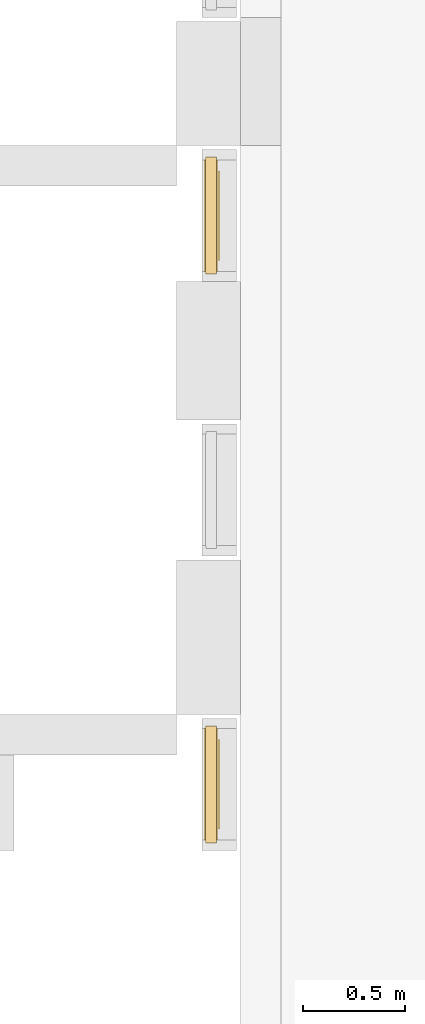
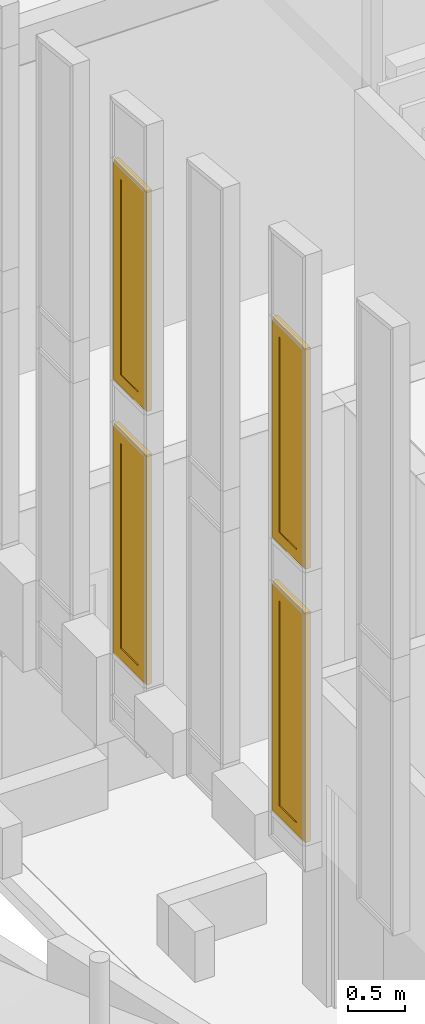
# One storey, part 156 of 246: 4 windows, 2 elements without a shape of their own.
"""IFC2X3 building model written with IfcOpenShell, lengths in millimetres."""

from ifc_helpers import new_model, entity, si_unit, converted_unit, derived_unit, money_unit, direction, frame, origin_with_axes, place, context, subcontext, project, spatial, open_shell, faceted_brep, surface_model, material, material_list, type_object, element, aggregate, save


model = new_model("IFC2X3")

# Units and contexts
model_context = context("Model", 3, precision=0.01, world=origin_with_axes(), true_north=direction((0.0, 1.0)))
body_context = subcontext(model_context, "Body", "Model", "MODEL_VIEW")
ifc_project = project(units=[si_unit("LENGTHUNIT", "METRE", prefix="MILLI"), si_unit("AREAUNIT", "SQUARE_METRE"), si_unit("VOLUMEUNIT", "CUBIC_METRE"), converted_unit("PLANEANGLEUNIT", "DEGREE", entity("IfcPlaneAngleMeasure", 0.0174532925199), si_unit("PLANEANGLEUNIT", "RADIAN"), dimensions=[0, 0, 0, 0, 0, 0, 0]), si_unit("SOLIDANGLEUNIT", "STERADIAN"), money_unit("EUR"), converted_unit("TIMEUNIT", "Year", entity("IfcTimeMeasure", 31556926.0), si_unit("TIMEUNIT", "SECOND"), dimensions=[0, 0, 1, 0, 0, 0, 0]), si_unit("MASSUNIT", "GRAM", prefix="KILO"), si_unit("THERMODYNAMICTEMPERATUREUNIT", "DEGREE_CELSIUS"), si_unit("LUMINOUSINTENSITYUNIT", "LUMEN"), si_unit("ENERGYUNIT", "JOULE", prefix="MEGA"), derived_unit("THERMALCONDUCTANCEUNIT", [(si_unit("POWERUNIT", "WATT"), 1), (si_unit("LENGTHUNIT", "METRE"), -1), (si_unit("THERMODYNAMICTEMPERATUREUNIT", "KELVIN"), -1)]), derived_unit("SPECIFICHEATCAPACITYUNIT", [(si_unit("ENERGYUNIT", "JOULE"), 1), (si_unit("MASSUNIT", "GRAM", prefix="KILO"), -1), (si_unit("THERMODYNAMICTEMPERATUREUNIT", "KELVIN"), -1)]), derived_unit("MASSDENSITYUNIT", [(si_unit("MASSUNIT", "GRAM", prefix="KILO"), 1), (si_unit("VOLUMEUNIT", "CUBIC_METRE"), -1)])], contexts=[model_context])

# Site, building, storey
site_placement = place(None, origin_with_axes())
site = spatial("IfcSite", under=ifc_project, at=site_placement, Name="L.Koidula tn 11b", CompositionType="ELEMENT")
building_placement = place(site_placement, origin_with_axes())
building = spatial("IfcBuilding", under=site, at=building_placement, Name="Rakvere Riigigümnaasium", CompositionType="ELEMENT")
storey_placement = place(building_placement, origin_with_axes())
storey = spatial("IfcBuildingStorey", under=building, at=storey_placement, Name="1.korrus 0,00", CompositionType="ELEMENT", Elevation=0.0)

# Curtain wall, window
curtain_wall_type = type_object("IfcCurtainWallType", Name="Curtain Wall Type", PredefinedType="NOTDEFINED")
curtain_wall_1_placement = place(storey_placement, frame((35156.0871538, 22235.4555038, 3003.0), z_axis=(0.0, 0.0, 1.0), x_axis=(1.0, 0.0, 0.0)))
curtain_wall_1 = element("IfcCurtainWall", 1, at=curtain_wall_1_placement, inside=storey, type_object=curtain_wall_type, Name="KLF-04-07")
ifc_material_1 = material(Name="Alumiiniumprofiil (RAL 7021)")
ifc_material_2 = material(Name="Klaaspakett 3x")
ifc_material_list = material_list([ifc_material_1, ifc_material_2])
window_style_1 = type_object("IfcWindowStyle", Name="576 x 2476 x 54", ConstructionType="NOTDEFINED", OperationType="NOTDEFINED", ParameterTakesPrecedence=False, Sizeable=False)
window_1_placement = place(curtain_wall_1_placement, frame((0.0, -1.52644155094e-05, 1992.00007113), z_axis=(0.0, 0.0, 1.0), x_axis=(0.0, 1.0, 0.0)))
window_1 = element("IfcWindow", 2, at=window_1_placement, type_object=window_style_1, material=ifc_material_list, Name="KLF-04-A-7", ObjectType="WINDOW", context=body_context, shape_type="SurfaceModel", body=[
    surface_model("IfcShellBasedSurfaceModel", [(275.000062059, 36.0, -1225.0), (221.000062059, 36.0, -1171.0), (-221.000012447, 36.0, -1171.0), (-275.000012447, 36.0, -1225.0)], [open_shell([[[0, 1, 2, 3]]])]),
    surface_model("IfcShellBasedSurfaceModel", [(-275.000012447, 36.0, -1225.0), (-221.000012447, 36.0, -1171.0), (-221.000012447, 36.0, 1171.0), (-275.000012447, 36.0, 1225.0)], [open_shell([[[0, 1, 2, 3]]])]),
    surface_model("IfcShellBasedSurfaceModel", [(275.000062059, 36.0, 1225.0), (-275.000012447, 36.0, 1225.0), (-221.000012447, 36.0, 1171.0), (221.000062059, 36.0, 1171.0)], [open_shell([[[0, 1, 2, 3]]])]),
    surface_model("IfcShellBasedSurfaceModel", [(275.000062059, 36.0, -1225.0), (275.000062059, 36.0, 1225.0), (221.000062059, 36.0, 1171.0), (221.000062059, 36.0, -1171.0)], [open_shell([[[0, 1, 2, 3]]])]),
    faceted_brep([(275.000062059, -34.0, -1225.0), (-275.000012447, -34.0, -1225.0), (-275.000012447, 36.0, -1225.0), (275.000062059, 36.0, -1225.0), (221.000062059, -34.0, -1171.0), (-221.000012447, -34.0, -1171.0), (-221.000012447, 36.0, -1171.0), (221.000062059, 36.0, -1171.0)], [[[0, 1, 2, 3]], [[0, 4, 5, 1]], [[1, 5, 6, 2]], [[3, 2, 6, 7]], [[4, 0, 3, 7]], [[5, 4, 7, 6]]]),
    faceted_brep([(-275.000012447, -34.0, -1225.0), (-275.000012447, -34.0, 1225.0), (-275.000012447, 36.0, 1225.0), (-275.000012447, 36.0, -1225.0), (-221.000012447, -34.0, -1171.0), (-221.000012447, -34.0, 1171.0), (-221.000012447, 36.0, 1171.0), (-221.000012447, 36.0, -1171.0)], [[[0, 1, 2, 3]], [[0, 4, 5, 1]], [[1, 5, 6, 2]], [[3, 2, 6, 7]], [[4, 0, 3, 7]], [[5, 4, 7, 6]]]),
    faceted_brep([(275.000062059, -34.0, 1225.0), (221.000062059, -34.0, 1171.0), (221.000062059, 36.0, 1171.0), (275.000062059, 36.0, 1225.0), (-275.000012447, -34.0, 1225.0), (-221.000012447, -34.0, 1171.0), (-221.000012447, 36.0, 1171.0), (-275.000012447, 36.0, 1225.0)], [[[0, 1, 2, 3]], [[0, 4, 5, 1]], [[1, 5, 6, 2]], [[3, 2, 6, 7]], [[4, 0, 3, 7]], [[5, 4, 7, 6]]]),
    faceted_brep([(275.000062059, -34.0, -1225.0), (221.000062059, -34.0, -1171.0), (221.000062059, 36.0, -1171.0), (275.000062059, 36.0, -1225.0), (275.000062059, -34.0, 1225.0), (221.000062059, -34.0, 1171.0), (221.000062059, 36.0, 1171.0), (275.000062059, 36.0, 1225.0)], [[[0, 1, 2, 3]], [[0, 4, 5, 1]], [[1, 5, 6, 2]], [[3, 2, 6, 7]], [[4, 0, 3, 7]], [[5, 4, 7, 6]]]),
    faceted_brep([(288.000071, -27.0, -1238.00000894), (-288.000021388, -27.0, -1238.00000894), (-288.000021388, 27.0, -1238.00000894), (288.000071, 27.0, -1238.00000894), (275.000062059, -27.0, -1225.0), (-275.000012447, -27.0, -1225.0), (-275.000012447, 27.0, -1225.0), (275.000062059, 27.0, -1225.0)], [[[0, 1, 2, 3]], [[0, 4, 5, 1]], [[1, 5, 6, 2]], [[3, 2, 6, 7]], [[4, 0, 3, 7]], [[5, 4, 7, 6]]]),
    faceted_brep([(-288.000021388, -27.0, -1238.00000894), (-288.000021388, -27.0, 1238.00000894), (-288.000021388, 27.0, 1238.00000894), (-288.000021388, 27.0, -1238.00000894), (-275.000012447, -27.0, -1225.0), (-275.000012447, -27.0, 1225.0), (-275.000012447, 27.0, 1225.0), (-275.000012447, 27.0, -1225.0)], [[[0, 1, 2, 3]], [[0, 4, 5, 1]], [[1, 5, 6, 2]], [[3, 2, 6, 7]], [[4, 0, 3, 7]], [[5, 4, 7, 6]]]),
    faceted_brep([(-288.000021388, -27.0, 1238.00000894), (288.000071, -27.0, 1238.00000894), (288.000071, 27.0, 1238.00000894), (-288.000021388, 27.0, 1238.00000894), (-275.000012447, -27.0, 1225.0), (275.000062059, -27.0, 1225.0), (275.000062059, 27.0, 1225.0), (-275.000012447, 27.0, 1225.0)], [[[0, 1, 2, 3]], [[0, 4, 5, 1]], [[1, 5, 6, 2]], [[3, 2, 6, 7]], [[4, 0, 3, 7]], [[5, 4, 7, 6]]]),
    faceted_brep([(288.000071, -27.0, 1238.00000894), (288.000071, -27.0, -1238.00000894), (288.000071, 27.0, -1238.00000894), (288.000071, 27.0, 1238.00000894), (275.000062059, -27.0, 1225.0), (275.000062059, -27.0, -1225.0), (275.000062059, 27.0, -1225.0), (275.000062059, 27.0, 1225.0)], [[[0, 1, 2, 3]], [[0, 4, 5, 1]], [[1, 5, 6, 2]], [[3, 2, 6, 7]], [[4, 0, 3, 7]], [[5, 4, 7, 6]]]),
    faceted_brep([(153.000062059, 36.0, -1103.0), (153.000062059, -44.0, -1103.0), (153.000062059, -44.0, 1103.0), (153.000062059, 36.0, 1103.0), (221.000062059, 36.0, -1171.0), (221.000062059, -44.0, -1171.0), (221.000062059, -44.0, 1171.0), (221.000062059, 36.0, 1171.0)], [[[0, 1, 2, 3]], [[4, 5, 1, 0]], [[1, 5, 6, 2]], [[3, 2, 6, 7]], [[0, 3, 7, 4]], [[7, 6, 5, 4]]]),
    faceted_brep([(-221.000012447, 36.0, -1171.0), (-221.000012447, -44.0, -1171.0), (-221.000012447, -44.0, 1171.0), (-221.000012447, 36.0, 1171.0), (-153.000012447, 36.0, -1103.0), (-153.000012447, -44.0, -1103.0), (-153.000012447, -44.0, 1103.0), (-153.000012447, 36.0, 1103.0)], [[[0, 1, 2, 3]], [[4, 5, 1, 0]], [[1, 5, 6, 2]], [[3, 2, 6, 7]], [[0, 3, 7, 4]], [[7, 6, 5, 4]]]),
    faceted_brep([(-221.000012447, 36.0, -1171.0), (-221.000012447, -44.0, -1171.0), (-153.000012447, -44.0, -1103.0), (-153.000012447, 36.0, -1103.0), (221.000062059, 36.0, -1171.0), (221.000062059, -44.0, -1171.0), (153.000062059, -44.0, -1103.0), (153.000062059, 36.0, -1103.0)], [[[0, 1, 2, 3]], [[4, 5, 1, 0]], [[1, 5, 6, 2]], [[3, 2, 6, 7]], [[0, 3, 7, 4]], [[7, 6, 5, 4]]]),
    faceted_brep([(221.000062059, 36.0, 1171.0), (221.000062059, -44.0, 1171.0), (153.000062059, -44.0, 1103.0), (153.000062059, 36.0, 1103.0), (-221.000012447, 36.0, 1171.0), (-221.000012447, -44.0, 1171.0), (-153.000012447, -44.0, 1103.0), (-153.000012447, 36.0, 1103.0)], [[[0, 1, 2, 3]], [[4, 5, 1, 0]], [[1, 5, 6, 2]], [[3, 2, 6, 7]], [[0, 3, 7, 4]], [[7, 6, 5, 4]]]),
    faceted_brep([(153.000062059, 27.0, -1103.0), (153.000062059, 11.0, -1103.0), (-153.000012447, 11.0, -1103.0), (-153.000012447, 27.0, -1103.0), (153.000062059, 27.0, 1103.0), (153.000062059, 11.0, 1103.0), (-153.000012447, 11.0, 1103.0), (-153.000012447, 27.0, 1103.0)], [[[0, 1, 2, 3]], [[4, 5, 1, 0]], [[1, 5, 6, 2]], [[3, 2, 6, 7]], [[0, 3, 7, 4]], [[7, 6, 5, 4]]]),
])

curtain_wall_2_placement = place(storey_placement, frame((35156.0871538, 19435.4554934, 3468.0), z_axis=(0.0, 0.0, 1.0), x_axis=(1.0, 0.0, 0.0)))
curtain_wall_2 = element("IfcCurtainWall", 3, at=curtain_wall_2_placement, inside=storey, type_object=curtain_wall_type, Name="KLF-04-09")
window_2_placement = place(curtain_wall_2_placement, frame((0.0, 2.3627606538e-05, 1527.00007113), z_axis=(0.0, 0.0, 1.0), x_axis=(0.0, 1.0, 0.0)))
window_2 = element("IfcWindow", 4, at=window_2_placement, type_object=window_style_1, material=ifc_material_list, Name="KLF-04-A-7", ObjectType="WINDOW", context=body_context, shape_type="SurfaceModel", body=[
    surface_model("IfcShellBasedSurfaceModel", [(275.000050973, 36.0, -1225.0), (221.000050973, 36.0, -1171.0), (-221.000060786, 36.0, -1171.0), (-275.000060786, 36.0, -1225.0)], [open_shell([[[0, 1, 2, 3]]])]),
    surface_model("IfcShellBasedSurfaceModel", [(-275.000060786, 36.0, -1225.0), (-221.000060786, 36.0, -1171.0), (-221.000060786, 36.0, 1171.0), (-275.000060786, 36.0, 1225.0)], [open_shell([[[0, 1, 2, 3]]])]),
    surface_model("IfcShellBasedSurfaceModel", [(275.000050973, 36.0, 1225.0), (-275.000060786, 36.0, 1225.0), (-221.000060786, 36.0, 1171.0), (221.000050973, 36.0, 1171.0)], [open_shell([[[0, 1, 2, 3]]])]),
    surface_model("IfcShellBasedSurfaceModel", [(275.000050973, 36.0, -1225.0), (275.000050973, 36.0, 1225.0), (221.000050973, 36.0, 1171.0), (221.000050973, 36.0, -1171.0)], [open_shell([[[0, 1, 2, 3]]])]),
    faceted_brep([(275.000050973, -34.0, -1225.0), (-275.000060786, -34.0, -1225.0), (-275.000060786, 36.0, -1225.0), (275.000050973, 36.0, -1225.0), (221.000050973, -34.0, -1171.0), (-221.000060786, -34.0, -1171.0), (-221.000060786, 36.0, -1171.0), (221.000050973, 36.0, -1171.0)], [[[0, 1, 2, 3]], [[0, 4, 5, 1]], [[1, 5, 6, 2]], [[3, 2, 6, 7]], [[4, 0, 3, 7]], [[5, 4, 7, 6]]]),
    faceted_brep([(-275.000060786, -34.0, -1225.0), (-275.000060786, -34.0, 1225.0), (-275.000060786, 36.0, 1225.0), (-275.000060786, 36.0, -1225.0), (-221.000060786, -34.0, -1171.0), (-221.000060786, -34.0, 1171.0), (-221.000060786, 36.0, 1171.0), (-221.000060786, 36.0, -1171.0)], [[[0, 1, 2, 3]], [[0, 4, 5, 1]], [[1, 5, 6, 2]], [[3, 2, 6, 7]], [[4, 0, 3, 7]], [[5, 4, 7, 6]]]),
    faceted_brep([(275.000050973, -34.0, 1225.0), (221.000050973, -34.0, 1171.0), (221.000050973, 36.0, 1171.0), (275.000050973, 36.0, 1225.0), (-275.000060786, -34.0, 1225.0), (-221.000060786, -34.0, 1171.0), (-221.000060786, 36.0, 1171.0), (-275.000060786, 36.0, 1225.0)], [[[0, 1, 2, 3]], [[0, 4, 5, 1]], [[1, 5, 6, 2]], [[3, 2, 6, 7]], [[4, 0, 3, 7]], [[5, 4, 7, 6]]]),
    faceted_brep([(275.000050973, -34.0, -1225.0), (221.000050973, -34.0, -1171.0), (221.000050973, 36.0, -1171.0), (275.000050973, 36.0, -1225.0), (275.000050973, -34.0, 1225.0), (221.000050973, -34.0, 1171.0), (221.000050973, 36.0, 1171.0), (275.000050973, 36.0, 1225.0)], [[[0, 1, 2, 3]], [[0, 4, 5, 1]], [[1, 5, 6, 2]], [[3, 2, 6, 7]], [[4, 0, 3, 7]], [[5, 4, 7, 6]]]),
    faceted_brep([(288.000059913, -27.0, -1238.00000894), (-288.000032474, -27.0, -1238.00000894), (-288.000032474, 27.0, -1238.00000894), (288.000059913, 27.0, -1238.00000894), (275.000050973, -27.0, -1225.0), (-275.000060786, -27.0, -1225.0), (-275.000060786, 27.0, -1225.0), (275.000050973, 27.0, -1225.0)], [[[0, 1, 2, 3]], [[0, 4, 5, 1]], [[1, 5, 6, 2]], [[3, 2, 6, 7]], [[4, 0, 3, 7]], [[5, 4, 7, 6]]]),
    faceted_brep([(-288.000032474, -27.0, -1238.00000894), (-288.000032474, -27.0, 1238.00000894), (-288.000032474, 27.0, 1238.00000894), (-288.000032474, 27.0, -1238.00000894), (-275.000060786, -27.0, -1225.0), (-275.000060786, -27.0, 1225.0), (-275.000060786, 27.0, 1225.0), (-275.000060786, 27.0, -1225.0)], [[[0, 1, 2, 3]], [[0, 4, 5, 1]], [[1, 5, 6, 2]], [[3, 2, 6, 7]], [[4, 0, 3, 7]], [[5, 4, 7, 6]]]),
    faceted_brep([(-288.000032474, -27.0, 1238.00000894), (288.000059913, -27.0, 1238.00000894), (288.000059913, 27.0, 1238.00000894), (-288.000032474, 27.0, 1238.00000894), (-275.000060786, -27.0, 1225.0), (275.000050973, -27.0, 1225.0), (275.000050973, 27.0, 1225.0), (-275.000060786, 27.0, 1225.0)], [[[0, 1, 2, 3]], [[0, 4, 5, 1]], [[1, 5, 6, 2]], [[3, 2, 6, 7]], [[4, 0, 3, 7]], [[5, 4, 7, 6]]]),
    faceted_brep([(288.000059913, -27.0, 1238.00000894), (288.000059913, -27.0, -1238.00000894), (288.000059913, 27.0, -1238.00000894), (288.000059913, 27.0, 1238.00000894), (275.000050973, -27.0, 1225.0), (275.000050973, -27.0, -1225.0), (275.000050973, 27.0, -1225.0), (275.000050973, 27.0, 1225.0)], [[[0, 1, 2, 3]], [[0, 4, 5, 1]], [[1, 5, 6, 2]], [[3, 2, 6, 7]], [[4, 0, 3, 7]], [[5, 4, 7, 6]]]),
    faceted_brep([(153.000050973, 36.0, -1103.0), (153.000050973, -44.0, -1103.0), (153.000050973, -44.0, 1103.0), (153.000050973, 36.0, 1103.0), (221.000050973, 36.0, -1171.0), (221.000050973, -44.0, -1171.0), (221.000050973, -44.0, 1171.0), (221.000050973, 36.0, 1171.0)], [[[0, 1, 2, 3]], [[4, 5, 1, 0]], [[1, 5, 6, 2]], [[3, 2, 6, 7]], [[0, 3, 7, 4]], [[7, 6, 5, 4]]]),
    faceted_brep([(-221.000060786, 36.0, -1171.0), (-221.000060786, -44.0, -1171.0), (-221.000060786, -44.0, 1171.0), (-221.000060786, 36.0, 1171.0), (-153.000060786, 36.0, -1103.0), (-153.000060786, -44.0, -1103.0), (-153.000060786, -44.0, 1103.0), (-153.000060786, 36.0, 1103.0)], [[[0, 1, 2, 3]], [[4, 5, 1, 0]], [[1, 5, 6, 2]], [[3, 2, 6, 7]], [[0, 3, 7, 4]], [[7, 6, 5, 4]]]),
    faceted_brep([(-221.000060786, 36.0, -1171.0), (-221.000060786, -44.0, -1171.0), (-153.000060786, -44.0, -1103.0), (-153.000060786, 36.0, -1103.0), (221.000050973, 36.0, -1171.0), (221.000050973, -44.0, -1171.0), (153.000050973, -44.0, -1103.0), (153.000050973, 36.0, -1103.0)], [[[0, 1, 2, 3]], [[4, 5, 1, 0]], [[1, 5, 6, 2]], [[3, 2, 6, 7]], [[0, 3, 7, 4]], [[7, 6, 5, 4]]]),
    faceted_brep([(221.000050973, 36.0, 1171.0), (221.000050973, -44.0, 1171.0), (153.000050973, -44.0, 1103.0), (153.000050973, 36.0, 1103.0), (-221.000060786, 36.0, 1171.0), (-221.000060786, -44.0, 1171.0), (-153.000060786, -44.0, 1103.0), (-153.000060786, 36.0, 1103.0)], [[[0, 1, 2, 3]], [[4, 5, 1, 0]], [[1, 5, 6, 2]], [[3, 2, 6, 7]], [[0, 3, 7, 4]], [[7, 6, 5, 4]]]),
    faceted_brep([(153.000050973, 27.0, -1103.0), (153.000050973, 11.0, -1103.0), (-153.000060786, 11.0, -1103.0), (-153.000060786, 27.0, -1103.0), (153.000050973, 27.0, 1103.0), (153.000050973, 11.0, 1103.0), (-153.000060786, 11.0, 1103.0), (-153.000060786, 27.0, 1103.0)], [[[0, 1, 2, 3]], [[4, 5, 1, 0]], [[1, 5, 6, 2]], [[3, 2, 6, 7]], [[0, 3, 7, 4]], [[7, 6, 5, 4]]]),
])

# Window
window_style_2 = type_object("IfcWindowStyle", Name="576 x 2376 x 54", ConstructionType="NOTDEFINED", OperationType="NOTDEFINED", ParameterTakesPrecedence=False, Sizeable=False)
window_3_placement = place(curtain_wall_1_placement, frame((0.0, 1.93788203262e-05, 4887.00007113), z_axis=(0.0, 0.0, 1.0), x_axis=(0.0, 1.0, 0.0)))
window_3 = element("IfcWindow", 5, at=window_3_placement, type_object=window_style_2, material=ifc_material_list, Name="KLF-04-A-8", ObjectType="WINDOW", context=body_context, shape_type="SurfaceModel", body=[
    surface_model("IfcShellBasedSurfaceModel", [(274.999922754, 36.0, -1175.0), (220.999922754, 36.0, -1121.0), (-220.999934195, 36.0, -1121.0), (-274.999934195, 36.0, -1175.0)], [open_shell([[[0, 1, 2, 3]]])]),
    surface_model("IfcShellBasedSurfaceModel", [(-274.999934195, 36.0, -1175.0), (-220.999934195, 36.0, -1121.0), (-220.999934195, 36.0, 1121.0), (-274.999934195, 36.0, 1175.0)], [open_shell([[[0, 1, 2, 3]]])]),
    surface_model("IfcShellBasedSurfaceModel", [(274.999922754, 36.0, 1175.0), (-274.999934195, 36.0, 1175.0), (-220.999934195, 36.0, 1121.0), (220.999922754, 36.0, 1121.0)], [open_shell([[[0, 1, 2, 3]]])]),
    surface_model("IfcShellBasedSurfaceModel", [(274.999922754, 36.0, -1175.0), (274.999922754, 36.0, 1175.0), (220.999922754, 36.0, 1121.0), (220.999922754, 36.0, -1121.0)], [open_shell([[[0, 1, 2, 3]]])]),
    faceted_brep([(274.999922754, -34.0, -1175.0), (-274.999934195, -34.0, -1175.0), (-274.999934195, 36.0, -1175.0), (274.999922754, 36.0, -1175.0), (220.999922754, -34.0, -1121.0), (-220.999934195, -34.0, -1121.0), (-220.999934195, 36.0, -1121.0), (220.999922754, 36.0, -1121.0)], [[[0, 1, 2, 3]], [[0, 4, 5, 1]], [[1, 5, 6, 2]], [[3, 2, 6, 7]], [[4, 0, 3, 7]], [[5, 4, 7, 6]]]),
    faceted_brep([(-274.999934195, -34.0, -1175.0), (-274.999934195, -34.0, 1175.0), (-274.999934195, 36.0, 1175.0), (-274.999934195, 36.0, -1175.0), (-220.999934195, -34.0, -1121.0), (-220.999934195, -34.0, 1121.0), (-220.999934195, 36.0, 1121.0), (-220.999934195, 36.0, -1121.0)], [[[0, 1, 2, 3]], [[0, 4, 5, 1]], [[1, 5, 6, 2]], [[3, 2, 6, 7]], [[4, 0, 3, 7]], [[5, 4, 7, 6]]]),
    faceted_brep([(274.999922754, -34.0, 1175.0), (220.999922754, -34.0, 1121.0), (220.999922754, 36.0, 1121.0), (274.999922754, 36.0, 1175.0), (-274.999934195, -34.0, 1175.0), (-220.999934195, -34.0, 1121.0), (-220.999934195, 36.0, 1121.0), (-274.999934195, 36.0, 1175.0)], [[[0, 1, 2, 3]], [[0, 4, 5, 1]], [[1, 5, 6, 2]], [[3, 2, 6, 7]], [[4, 0, 3, 7]], [[5, 4, 7, 6]]]),
    faceted_brep([(274.999922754, -34.0, -1175.0), (220.999922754, -34.0, -1121.0), (220.999922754, 36.0, -1121.0), (274.999922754, 36.0, -1175.0), (274.999922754, -34.0, 1175.0), (220.999922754, -34.0, 1121.0), (220.999922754, 36.0, 1121.0), (274.999922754, 36.0, 1175.0)], [[[0, 1, 2, 3]], [[0, 4, 5, 1]], [[1, 5, 6, 2]], [[3, 2, 6, 7]], [[4, 0, 3, 7]], [[5, 4, 7, 6]]]),
    faceted_brep([(287.999922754, -27.0, -1188.0), (-287.999934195, -27.0, -1188.0), (-287.999934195, 27.0, -1188.0), (287.999922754, 27.0, -1188.0), (274.999922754, -27.0, -1175.0), (-274.999934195, -27.0, -1175.0), (-274.999934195, 27.0, -1175.0), (274.999922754, 27.0, -1175.0)], [[[0, 1, 2, 3]], [[0, 4, 5, 1]], [[1, 5, 6, 2]], [[3, 2, 6, 7]], [[4, 0, 3, 7]], [[5, 4, 7, 6]]]),
    faceted_brep([(-287.999934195, -27.0, -1188.0), (-287.999934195, -27.0, 1188.0), (-287.999934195, 27.0, 1188.0), (-287.999934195, 27.0, -1188.0), (-274.999934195, -27.0, -1175.0), (-274.999934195, -27.0, 1175.0), (-274.999934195, 27.0, 1175.0), (-274.999934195, 27.0, -1175.0)], [[[0, 1, 2, 3]], [[0, 4, 5, 1]], [[1, 5, 6, 2]], [[3, 2, 6, 7]], [[4, 0, 3, 7]], [[5, 4, 7, 6]]]),
    faceted_brep([(-287.999934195, -27.0, 1188.0), (287.999922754, -27.0, 1188.0), (287.999922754, 27.0, 1188.0), (-287.999934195, 27.0, 1188.0), (-274.999934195, -27.0, 1175.0), (274.999922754, -27.0, 1175.0), (274.999922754, 27.0, 1175.0), (-274.999934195, 27.0, 1175.0)], [[[0, 1, 2, 3]], [[0, 4, 5, 1]], [[1, 5, 6, 2]], [[3, 2, 6, 7]], [[4, 0, 3, 7]], [[5, 4, 7, 6]]]),
    faceted_brep([(287.999922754, -27.0, 1188.0), (287.999922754, -27.0, -1188.0), (287.999922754, 27.0, -1188.0), (287.999922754, 27.0, 1188.0), (274.999922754, -27.0, 1175.0), (274.999922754, -27.0, -1175.0), (274.999922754, 27.0, -1175.0), (274.999922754, 27.0, 1175.0)], [[[0, 1, 2, 3]], [[0, 4, 5, 1]], [[1, 5, 6, 2]], [[3, 2, 6, 7]], [[4, 0, 3, 7]], [[5, 4, 7, 6]]]),
    faceted_brep([(152.999922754, 36.0, -1053.0), (152.999922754, -44.0, -1053.0), (152.999922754, -44.0, 1053.0), (152.999922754, 36.0, 1053.0), (220.999922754, 36.0, -1121.0), (220.999922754, -44.0, -1121.0), (220.999922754, -44.0, 1121.0), (220.999922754, 36.0, 1121.0)], [[[0, 1, 2, 3]], [[4, 5, 1, 0]], [[1, 5, 6, 2]], [[3, 2, 6, 7]], [[0, 3, 7, 4]], [[7, 6, 5, 4]]]),
    faceted_brep([(-220.999934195, 36.0, -1121.0), (-220.999934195, -44.0, -1121.0), (-220.999934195, -44.0, 1121.0), (-220.999934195, 36.0, 1121.0), (-152.999934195, 36.0, -1053.0), (-152.999934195, -44.0, -1053.0), (-152.999934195, -44.0, 1053.0), (-152.999934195, 36.0, 1053.0)], [[[0, 1, 2, 3]], [[4, 5, 1, 0]], [[1, 5, 6, 2]], [[3, 2, 6, 7]], [[0, 3, 7, 4]], [[7, 6, 5, 4]]]),
    faceted_brep([(-220.999934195, 36.0, -1121.0), (-220.999934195, -44.0, -1121.0), (-152.999934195, -44.0, -1053.0), (-152.999934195, 36.0, -1053.0), (220.999922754, 36.0, -1121.0), (220.999922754, -44.0, -1121.0), (152.999922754, -44.0, -1053.0), (152.999922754, 36.0, -1053.0)], [[[0, 1, 2, 3]], [[4, 5, 1, 0]], [[1, 5, 6, 2]], [[3, 2, 6, 7]], [[0, 3, 7, 4]], [[7, 6, 5, 4]]]),
    faceted_brep([(220.999922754, 36.0, 1121.0), (220.999922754, -44.0, 1121.0), (152.999922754, -44.0, 1053.0), (152.999922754, 36.0, 1053.0), (-220.999934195, 36.0, 1121.0), (-220.999934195, -44.0, 1121.0), (-152.999934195, -44.0, 1053.0), (-152.999934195, 36.0, 1053.0)], [[[0, 1, 2, 3]], [[4, 5, 1, 0]], [[1, 5, 6, 2]], [[3, 2, 6, 7]], [[0, 3, 7, 4]], [[7, 6, 5, 4]]]),
    faceted_brep([(152.999922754, 27.0, -1053.0), (152.999922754, 11.0, -1053.0), (-152.999934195, 11.0, -1053.0), (-152.999934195, 27.0, -1053.0), (152.999922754, 27.0, 1053.0), (152.999922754, 11.0, 1053.0), (-152.999934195, 11.0, 1053.0), (-152.999934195, 27.0, 1053.0)], [[[0, 1, 2, 3]], [[4, 5, 1, 0]], [[1, 5, 6, 2]], [[3, 2, 6, 7]], [[0, 3, 7, 4]], [[7, 6, 5, 4]]]),
])

aggregate(curtain_wall_1, [window_1, window_3])

window_4_placement = place(curtain_wall_2_placement, frame((0.0, 1.87824440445e-05, 4422.00007113), z_axis=(0.0, 0.0, 1.0), x_axis=(0.0, 1.0, 0.0)))
window_4 = element("IfcWindow", 6, at=window_4_placement, type_object=window_style_2, material=ifc_material_list, Name="KLF-04-A-8", ObjectType="WINDOW", context=body_context, shape_type="SurfaceModel", body=[
    surface_model("IfcShellBasedSurfaceModel", [(275.000055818, 36.0, -1175.0), (221.000055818, 36.0, -1121.0), (-221.000051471, 36.0, -1121.0), (-275.000051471, 36.0, -1175.0)], [open_shell([[[0, 1, 2, 3]]])]),
    surface_model("IfcShellBasedSurfaceModel", [(-275.000051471, 36.0, -1175.0), (-221.000051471, 36.0, -1121.0), (-221.000051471, 36.0, 1121.0), (-275.000051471, 36.0, 1175.0)], [open_shell([[[0, 1, 2, 3]]])]),
    surface_model("IfcShellBasedSurfaceModel", [(275.000055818, 36.0, 1175.0), (-275.000051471, 36.0, 1175.0), (-221.000051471, 36.0, 1121.0), (221.000055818, 36.0, 1121.0)], [open_shell([[[0, 1, 2, 3]]])]),
    surface_model("IfcShellBasedSurfaceModel", [(275.000055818, 36.0, -1175.0), (275.000055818, 36.0, 1175.0), (221.000055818, 36.0, 1121.0), (221.000055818, 36.0, -1121.0)], [open_shell([[[0, 1, 2, 3]]])]),
    faceted_brep([(275.000055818, -34.0, -1175.0), (-275.000051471, -34.0, -1175.0), (-275.000051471, 36.0, -1175.0), (275.000055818, 36.0, -1175.0), (221.000055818, -34.0, -1121.0), (-221.000051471, -34.0, -1121.0), (-221.000051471, 36.0, -1121.0), (221.000055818, 36.0, -1121.0)], [[[0, 1, 2, 3]], [[0, 4, 5, 1]], [[1, 5, 6, 2]], [[3, 2, 6, 7]], [[4, 0, 3, 7]], [[5, 4, 7, 6]]]),
    faceted_brep([(-275.000051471, -34.0, -1175.0), (-275.000051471, -34.0, 1175.0), (-275.000051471, 36.0, 1175.0), (-275.000051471, 36.0, -1175.0), (-221.000051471, -34.0, -1121.0), (-221.000051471, -34.0, 1121.0), (-221.000051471, 36.0, 1121.0), (-221.000051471, 36.0, -1121.0)], [[[0, 1, 2, 3]], [[0, 4, 5, 1]], [[1, 5, 6, 2]], [[3, 2, 6, 7]], [[4, 0, 3, 7]], [[5, 4, 7, 6]]]),
    faceted_brep([(275.000055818, -34.0, 1175.0), (221.000055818, -34.0, 1121.0), (221.000055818, 36.0, 1121.0), (275.000055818, 36.0, 1175.0), (-275.000051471, -34.0, 1175.0), (-221.000051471, -34.0, 1121.0), (-221.000051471, 36.0, 1121.0), (-275.000051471, 36.0, 1175.0)], [[[0, 1, 2, 3]], [[0, 4, 5, 1]], [[1, 5, 6, 2]], [[3, 2, 6, 7]], [[4, 0, 3, 7]], [[5, 4, 7, 6]]]),
    faceted_brep([(275.000055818, -34.0, -1175.0), (221.000055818, -34.0, -1121.0), (221.000055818, 36.0, -1121.0), (275.000055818, 36.0, -1175.0), (275.000055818, -34.0, 1175.0), (221.000055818, -34.0, 1121.0), (221.000055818, 36.0, 1121.0), (275.000055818, 36.0, 1175.0)], [[[0, 1, 2, 3]], [[0, 4, 5, 1]], [[1, 5, 6, 2]], [[3, 2, 6, 7]], [[4, 0, 3, 7]], [[5, 4, 7, 6]]]),
    faceted_brep([(288.000055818, -27.0, -1188.0), (-288.000051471, -27.0, -1188.0), (-288.000051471, 27.0, -1188.0), (288.000055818, 27.0, -1188.0), (275.000055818, -27.0, -1175.0), (-275.000051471, -27.0, -1175.0), (-275.000051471, 27.0, -1175.0), (275.000055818, 27.0, -1175.0)], [[[0, 1, 2, 3]], [[0, 4, 5, 1]], [[1, 5, 6, 2]], [[3, 2, 6, 7]], [[4, 0, 3, 7]], [[5, 4, 7, 6]]]),
    faceted_brep([(-288.000051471, -27.0, -1188.0), (-288.000051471, -27.0, 1188.0), (-288.000051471, 27.0, 1188.0), (-288.000051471, 27.0, -1188.0), (-275.000051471, -27.0, -1175.0), (-275.000051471, -27.0, 1175.0), (-275.000051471, 27.0, 1175.0), (-275.000051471, 27.0, -1175.0)], [[[0, 1, 2, 3]], [[0, 4, 5, 1]], [[1, 5, 6, 2]], [[3, 2, 6, 7]], [[4, 0, 3, 7]], [[5, 4, 7, 6]]]),
    faceted_brep([(-288.000051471, -27.0, 1188.0), (288.000055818, -27.0, 1188.0), (288.000055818, 27.0, 1188.0), (-288.000051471, 27.0, 1188.0), (-275.000051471, -27.0, 1175.0), (275.000055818, -27.0, 1175.0), (275.000055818, 27.0, 1175.0), (-275.000051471, 27.0, 1175.0)], [[[0, 1, 2, 3]], [[0, 4, 5, 1]], [[1, 5, 6, 2]], [[3, 2, 6, 7]], [[4, 0, 3, 7]], [[5, 4, 7, 6]]]),
    faceted_brep([(288.000055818, -27.0, 1188.0), (288.000055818, -27.0, -1188.0), (288.000055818, 27.0, -1188.0), (288.000055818, 27.0, 1188.0), (275.000055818, -27.0, 1175.0), (275.000055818, -27.0, -1175.0), (275.000055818, 27.0, -1175.0), (275.000055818, 27.0, 1175.0)], [[[0, 1, 2, 3]], [[0, 4, 5, 1]], [[1, 5, 6, 2]], [[3, 2, 6, 7]], [[4, 0, 3, 7]], [[5, 4, 7, 6]]]),
    faceted_brep([(153.000055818, 36.0, -1053.0), (153.000055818, -44.0, -1053.0), (153.000055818, -44.0, 1053.0), (153.000055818, 36.0, 1053.0), (221.000055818, 36.0, -1121.0), (221.000055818, -44.0, -1121.0), (221.000055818, -44.0, 1121.0), (221.000055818, 36.0, 1121.0)], [[[0, 1, 2, 3]], [[4, 5, 1, 0]], [[1, 5, 6, 2]], [[3, 2, 6, 7]], [[0, 3, 7, 4]], [[7, 6, 5, 4]]]),
    faceted_brep([(-221.000051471, 36.0, -1121.0), (-221.000051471, -44.0, -1121.0), (-221.000051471, -44.0, 1121.0), (-221.000051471, 36.0, 1121.0), (-153.000051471, 36.0, -1053.0), (-153.000051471, -44.0, -1053.0), (-153.000051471, -44.0, 1053.0), (-153.000051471, 36.0, 1053.0)], [[[0, 1, 2, 3]], [[4, 5, 1, 0]], [[1, 5, 6, 2]], [[3, 2, 6, 7]], [[0, 3, 7, 4]], [[7, 6, 5, 4]]]),
    faceted_brep([(-221.000051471, 36.0, -1121.0), (-221.000051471, -44.0, -1121.0), (-153.000051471, -44.0, -1053.0), (-153.000051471, 36.0, -1053.0), (221.000055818, 36.0, -1121.0), (221.000055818, -44.0, -1121.0), (153.000055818, -44.0, -1053.0), (153.000055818, 36.0, -1053.0)], [[[0, 1, 2, 3]], [[4, 5, 1, 0]], [[1, 5, 6, 2]], [[3, 2, 6, 7]], [[0, 3, 7, 4]], [[7, 6, 5, 4]]]),
    faceted_brep([(221.000055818, 36.0, 1121.0), (221.000055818, -44.0, 1121.0), (153.000055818, -44.0, 1053.0), (153.000055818, 36.0, 1053.0), (-221.000051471, 36.0, 1121.0), (-221.000051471, -44.0, 1121.0), (-153.000051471, -44.0, 1053.0), (-153.000051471, 36.0, 1053.0)], [[[0, 1, 2, 3]], [[4, 5, 1, 0]], [[1, 5, 6, 2]], [[3, 2, 6, 7]], [[0, 3, 7, 4]], [[7, 6, 5, 4]]]),
    faceted_brep([(153.000055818, 27.0, -1053.0), (153.000055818, 11.0, -1053.0), (-153.000051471, 11.0, -1053.0), (-153.000051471, 27.0, -1053.0), (153.000055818, 27.0, 1053.0), (153.000055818, 11.0, 1053.0), (-153.000051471, 11.0, 1053.0), (-153.000051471, 27.0, 1053.0)], [[[0, 1, 2, 3]], [[4, 5, 1, 0]], [[1, 5, 6, 2]], [[3, 2, 6, 7]], [[0, 3, 7, 4]], [[7, 6, 5, 4]]]),
])

aggregate(curtain_wall_2, [window_4, window_2])

save(model, "model.ifc")
